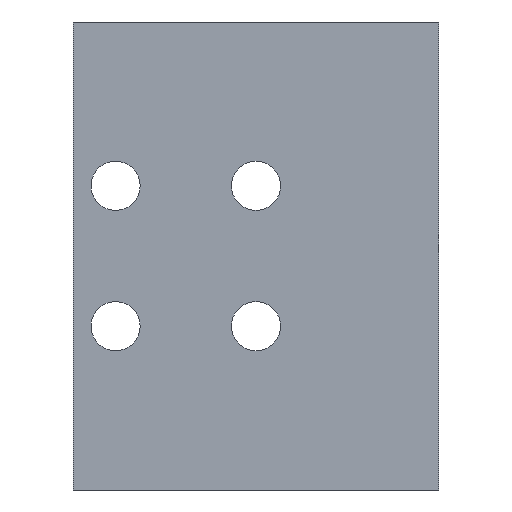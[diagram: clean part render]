
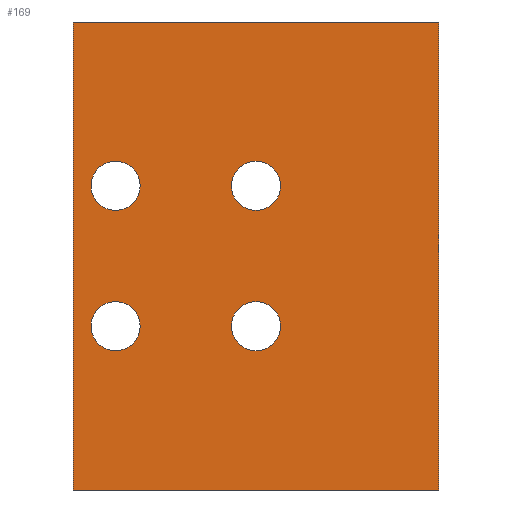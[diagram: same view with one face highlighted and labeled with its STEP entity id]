
A CAD part, front view. The second image highlights one B-rep face of the part: STEP entity #169.
In plain terms, the highlighted planar face has unit normal (0, -1, 0).
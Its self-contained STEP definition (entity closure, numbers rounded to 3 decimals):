
#103 = VERTEX_POINT( '', #270 );
#119 = VERTEX_POINT( '', #287 );
#121 = EDGE_CURVE( '', #151, #155, #289, .T. );
#123 = VERTEX_POINT( '', #291 );
#125 = EDGE_CURVE( '', #119, #137, #293, .T. );
#129 = EDGE_CURVE( '', #173, #123, #298, .T. );
#137 = VERTEX_POINT( '', #306 );
#143 = EDGE_CURVE( '', #103, #223, #313, .T. );
#145 = VERTEX_POINT( '', #315 );
#147 = EDGE_CURVE( '', #137, #181, #317, .T. );
#151 = VERTEX_POINT( '', #322 );
#153 = EDGE_CURVE( '', #223, #103, #324, .T. );
#155 = VERTEX_POINT( '', #326 );
#157 = VERTEX_POINT( '', #328 );
#169 = ADVANCED_FACE( '', ( #343, #344, #345, #346, #347 ), #348, .T. );
#173 = VERTEX_POINT( '', #352 );
#175 = EDGE_CURVE( '', #123, #173, #354, .T. );
#181 = VERTEX_POINT( '', #360 );
#197 = VERTEX_POINT( '', #382 );
#211 = EDGE_CURVE( '', #197, #145, #397, .T. );
#215 = EDGE_CURVE( '', #157, #181, #401, .T. );
#223 = VERTEX_POINT( '', #411 );
#235 = EDGE_CURVE( '', #119, #157, #423, .T. );
#241 = EDGE_CURVE( '', #155, #151, #429, .T. );
#243 = EDGE_CURVE( '', #145, #197, #431, .T. );
#270 = CARTESIAN_POINT( '', ( -35.25, 0., -15. ) );
#287 = CARTESIAN_POINT( '', ( 39., 0., 50. ) );
#289 = CIRCLE( '', #479, 5.25 );
#291 = CARTESIAN_POINT( '', ( -5.25, 0., -15. ) );
#293 = LINE( '', #484, #485 );
#298 = CIRCLE( '', #491, 5.25 );
#306 = CARTESIAN_POINT( '', ( -39., 0., 50. ) );
#313 = CIRCLE( '', #507, 5.25 );
#315 = CARTESIAN_POINT( '', ( -5.25, 0., 15. ) );
#317 = LINE( '', #512, #513 );
#322 = CARTESIAN_POINT( '', ( -35.25, 0., 15. ) );
#324 = CIRCLE( '', #521, 5.25 );
#326 = CARTESIAN_POINT( '', ( -24.75, 0., 15. ) );
#328 = CARTESIAN_POINT( '', ( 39., 0., -50. ) );
#343 = FACE_BOUND( '', #542, .T. );
#344 = FACE_BOUND( '', #543, .T. );
#345 = FACE_BOUND( '', #544, .T. );
#346 = FACE_BOUND( '', #545, .T. );
#347 = FACE_OUTER_BOUND( '', #546, .T. );
#348 = PLANE( '', #547 );
#352 = CARTESIAN_POINT( '', ( 5.25, 0., -15. ) );
#354 = CIRCLE( '', #554, 5.25 );
#360 = CARTESIAN_POINT( '', ( -39., 0., -50. ) );
#382 = CARTESIAN_POINT( '', ( 5.25, 0., 15. ) );
#397 = CIRCLE( '', #613, 5.25 );
#401 = LINE( '', #620, #621 );
#411 = CARTESIAN_POINT( '', ( -24.75, 0., -15. ) );
#423 = LINE( '', #647, #648 );
#429 = CIRCLE( '', #658, 5.25 );
#431 = CIRCLE( '', #661, 5.25 );
#479 = AXIS2_PLACEMENT_3D( '', #694, #695, #696 );
#484 = CARTESIAN_POINT( '', ( 39., 0., 50. ) );
#485 = VECTOR( '', #697, 1. );
#491 = AXIS2_PLACEMENT_3D( '', #706, #707, #708 );
#507 = AXIS2_PLACEMENT_3D( '', #721, #722, #723 );
#512 = CARTESIAN_POINT( '', ( -39., 0., 50. ) );
#513 = VECTOR( '', #724, 1. );
#521 = AXIS2_PLACEMENT_3D( '', #733, #734, #735 );
#542 = EDGE_LOOP( '', ( #762, #763 ) );
#543 = EDGE_LOOP( '', ( #764, #765 ) );
#544 = EDGE_LOOP( '', ( #766, #767 ) );
#545 = EDGE_LOOP( '', ( #768, #769 ) );
#546 = EDGE_LOOP( '', ( #770, #771, #772, #773 ) );
#547 = AXIS2_PLACEMENT_3D( '', #774, #775, #776 );
#554 = AXIS2_PLACEMENT_3D( '', #777, #778, #779 );
#613 = AXIS2_PLACEMENT_3D( '', #827, #828, #829 );
#620 = CARTESIAN_POINT( '', ( 39., 0., -50. ) );
#621 = VECTOR( '', #831, 1. );
#647 = CARTESIAN_POINT( '', ( 39., 0., 50. ) );
#648 = VECTOR( '', #852, 1. );
#658 = AXIS2_PLACEMENT_3D( '', #857, #858, #859 );
#661 = AXIS2_PLACEMENT_3D( '', #860, #861, #862 );
#694 = CARTESIAN_POINT( '', ( -30., 0., 15. ) );
#695 = DIRECTION( '', ( 0., 1., 0. ) );
#696 = DIRECTION( '', ( -1., 0., 0. ) );
#697 = DIRECTION( '', ( -1., 0., 0. ) );
#706 = CARTESIAN_POINT( '', ( 0., 0., -15. ) );
#707 = DIRECTION( '', ( 0., 1., 0. ) );
#708 = DIRECTION( '', ( -1., 0., 0. ) );
#721 = CARTESIAN_POINT( '', ( -30., 0., -15. ) );
#722 = DIRECTION( '', ( 0., 1., 0. ) );
#723 = DIRECTION( '', ( -1., 0., 0. ) );
#724 = DIRECTION( '', ( 0., 0., -1. ) );
#733 = CARTESIAN_POINT( '', ( -30., 0., -15. ) );
#734 = DIRECTION( '', ( 0., 1., 0. ) );
#735 = DIRECTION( '', ( -1., 0., 0. ) );
#762 = ORIENTED_EDGE( '', *, *, #211, .T. );
#763 = ORIENTED_EDGE( '', *, *, #243, .T. );
#764 = ORIENTED_EDGE( '', *, *, #241, .T. );
#765 = ORIENTED_EDGE( '', *, *, #121, .T. );
#766 = ORIENTED_EDGE( '', *, *, #129, .T. );
#767 = ORIENTED_EDGE( '', *, *, #175, .T. );
#768 = ORIENTED_EDGE( '', *, *, #153, .T. );
#769 = ORIENTED_EDGE( '', *, *, #143, .T. );
#770 = ORIENTED_EDGE( '', *, *, #147, .T. );
#771 = ORIENTED_EDGE( '', *, *, #215, .F. );
#772 = ORIENTED_EDGE( '', *, *, #235, .F. );
#773 = ORIENTED_EDGE( '', *, *, #125, .T. );
#774 = CARTESIAN_POINT( '', ( 39., 0., 50. ) );
#775 = DIRECTION( '', ( 0., -1., 0. ) );
#776 = DIRECTION( '', ( 0., 0., 1. ) );
#777 = CARTESIAN_POINT( '', ( 0., 0., -15. ) );
#778 = DIRECTION( '', ( 0., 1., 0. ) );
#779 = DIRECTION( '', ( -1., 0., 0. ) );
#827 = CARTESIAN_POINT( '', ( 0., 0., 15. ) );
#828 = DIRECTION( '', ( 0., 1., 0. ) );
#829 = DIRECTION( '', ( -1., 0., 0. ) );
#831 = DIRECTION( '', ( -1., 0., 0. ) );
#852 = DIRECTION( '', ( 0., 0., -1. ) );
#857 = CARTESIAN_POINT( '', ( -30., 0., 15. ) );
#858 = DIRECTION( '', ( 0., 1., 0. ) );
#859 = DIRECTION( '', ( -1., 0., 0. ) );
#860 = CARTESIAN_POINT( '', ( 0., 0., 15. ) );
#861 = DIRECTION( '', ( 0., 1., 0. ) );
#862 = DIRECTION( '', ( -1., 0., 0. ) );
